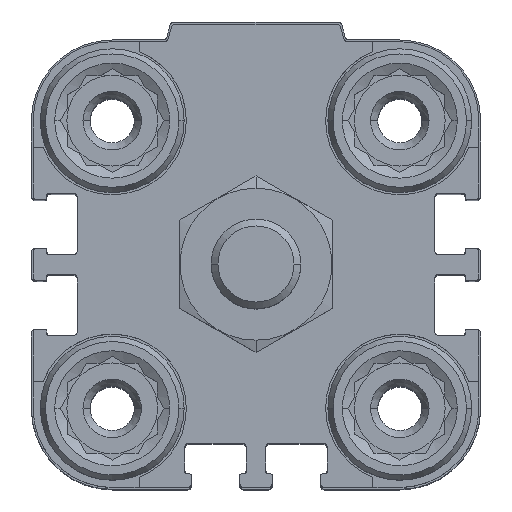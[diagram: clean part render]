
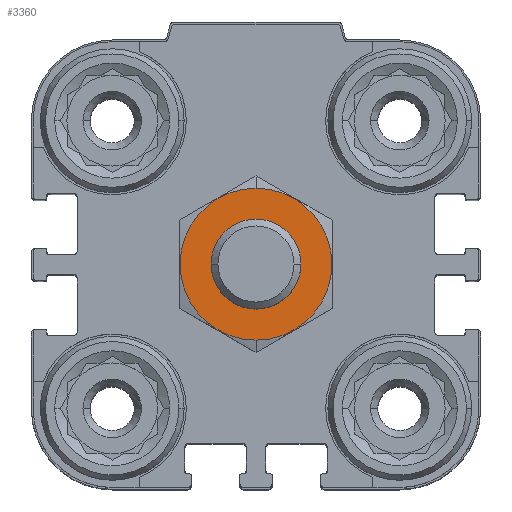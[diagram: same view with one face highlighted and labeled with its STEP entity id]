
A CAD part, top view. The second image highlights one B-rep face of the part: STEP entity #3360.
In plain terms, the highlighted planar face has unit normal (0, 0, 1).
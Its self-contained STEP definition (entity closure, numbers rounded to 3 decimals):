
#264 = EDGE_CURVE ( 'NONE', #562, #11482, #18529, .T. ) ;
#374 = CIRCLE ( 'NONE', #12195, 5. ) ;
#390 = AXIS2_PLACEMENT_3D ( 'NONE', #4534, #11252, #18689 ) ;
#562 = VERTEX_POINT ( 'NONE', #12283 ) ;
#1504 = DIRECTION ( 'NONE',  ( 0., -1., 0. ) ) ;
#1839 = FACE_BOUND ( 'NONE', #17000, .T. ) ;
#3009 = CARTESIAN_POINT ( 'NONE',  ( 0., 0., 15. ) ) ;
#3142 = EDGE_CURVE ( 'NONE', #11482, #562, #374, .T. ) ;
#3360 = ADVANCED_FACE ( 'NONE', ( #10646, #1839 ), #6599, .F. ) ;
#4534 = CARTESIAN_POINT ( 'NONE',  ( 0., 0., 15. ) ) ;
#4907 = ORIENTED_EDGE ( 'NONE', *, *, #16176, .F. ) ;
#4915 = CARTESIAN_POINT ( 'NONE',  ( 0., 8.45, 15. ) ) ;
#5034 = ORIENTED_EDGE ( 'NONE', *, *, #264, .T. ) ;
#5203 = CARTESIAN_POINT ( 'NONE',  ( 0., 0., 15. ) ) ;
#6434 = VERTEX_POINT ( 'NONE', #8826 ) ;
#6598 = AXIS2_PLACEMENT_3D ( 'NONE', #3009, #10072, #1504 ) ;
#6599 = PLANE ( 'NONE',  #15151 ) ;
#8281 = AXIS2_PLACEMENT_3D ( 'NONE', #20647, #18782, #15162 ) ;
#8826 = CARTESIAN_POINT ( 'NONE',  ( 0., -8.45, 15. ) ) ;
#9423 = ORIENTED_EDGE ( 'NONE', *, *, #3142, .T. ) ;
#10072 = DIRECTION ( 'NONE',  ( 0., 0., -1. ) ) ;
#10646 = FACE_OUTER_BOUND ( 'NONE', #18065, .T. ) ;
#11252 = DIRECTION ( 'NONE',  ( 0., 0., -1. ) ) ;
#11482 = VERTEX_POINT ( 'NONE', #11841 ) ;
#11841 = CARTESIAN_POINT ( 'NONE',  ( 0., -5., 15. ) ) ;
#12041 = DIRECTION ( 'NONE',  ( 0., -1., 0. ) ) ;
#12195 = AXIS2_PLACEMENT_3D ( 'NONE', #13081, #21939, #15171 ) ;
#12283 = CARTESIAN_POINT ( 'NONE',  ( 0., 5., 15. ) ) ;
#13081 = CARTESIAN_POINT ( 'NONE',  ( 0., 0., 15. ) ) ;
#13663 = DIRECTION ( 'NONE',  ( 0., 0., -1. ) ) ;
#15151 = AXIS2_PLACEMENT_3D ( 'NONE', #5203, #13663, #12041 ) ;
#15162 = DIRECTION ( 'NONE',  ( 0., -1., 0. ) ) ;
#15171 = DIRECTION ( 'NONE',  ( 0., -1., 0. ) ) ;
#15269 = ORIENTED_EDGE ( 'NONE', *, *, #22015, .F. ) ;
#16176 = EDGE_CURVE ( 'NONE', #6434, #17255, #17177, .T. ) ;
#17000 = EDGE_LOOP ( 'NONE', ( #5034, #9423 ) ) ;
#17177 = CIRCLE ( 'NONE', #8281, 8.45 ) ;
#17255 = VERTEX_POINT ( 'NONE', #4915 ) ;
#18065 = EDGE_LOOP ( 'NONE', ( #4907, #15269 ) ) ;
#18529 = CIRCLE ( 'NONE', #390, 5. ) ;
#18689 = DIRECTION ( 'NONE',  ( 0., -1., 0. ) ) ;
#18782 = DIRECTION ( 'NONE',  ( 0., 0., -1. ) ) ;
#19208 = CIRCLE ( 'NONE', #6598, 8.45 ) ;
#20647 = CARTESIAN_POINT ( 'NONE',  ( 0., 0., 15. ) ) ;
#21939 = DIRECTION ( 'NONE',  ( 0., 0., -1. ) ) ;
#22015 = EDGE_CURVE ( 'NONE', #17255, #6434, #19208, .T. ) ;
